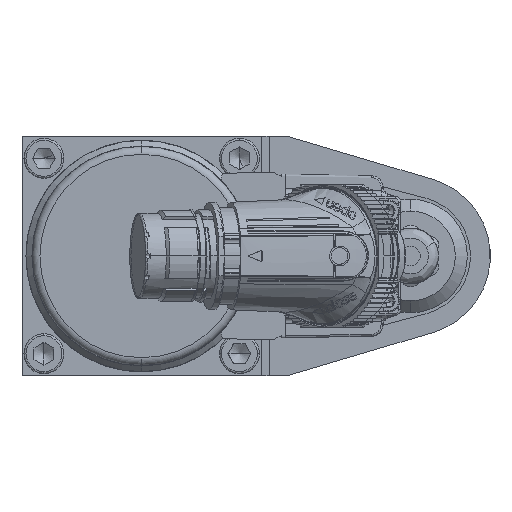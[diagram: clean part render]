
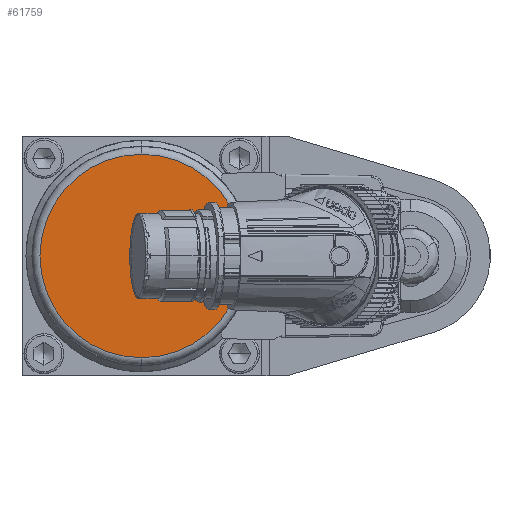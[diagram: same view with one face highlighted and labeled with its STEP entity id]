
A CAD part, left-side view. The second image highlights one B-rep face of the part: STEP entity #61759.
In plain terms, the highlighted planar face has unit normal (-1, 0, 0).
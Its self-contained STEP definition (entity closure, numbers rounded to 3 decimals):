
#1273 = FACE_OUTER_BOUND ( 'NONE', #20915, .T. ) ;
#4824 = EDGE_CURVE ( 'NONE', #55603, #28384, #36737, .T. ) ;
#8284 = CARTESIAN_POINT ( 'NONE',  ( -348.4, 0., 25.5 ) ) ;
#8621 = DIRECTION ( 'NONE',  ( -1., 0., 0. ) ) ;
#17584 = ORIENTED_EDGE ( 'NONE', *, *, #4824, .T. ) ;
#18930 = ORIENTED_EDGE ( 'NONE', *, *, #46751, .T. ) ;
#19496 = DIRECTION ( 'NONE',  ( -1., 0., 0. ) ) ;
#20915 = EDGE_LOOP ( 'NONE', ( #18930, #17584 ) ) ;
#21367 = DIRECTION ( 'NONE',  ( -1., 0., 0. ) ) ;
#28384 = VERTEX_POINT ( 'NONE', #8284 ) ;
#34796 = CARTESIAN_POINT ( 'NONE',  ( -348.4, 0., 0. ) ) ;
#36737 = CIRCLE ( 'NONE', #95067, 25.5 ) ;
#46751 = EDGE_CURVE ( 'NONE', #28384, #55603, #72638, .T. ) ;
#55603 = VERTEX_POINT ( 'NONE', #56326 ) ;
#56326 = CARTESIAN_POINT ( 'NONE',  ( -348.4, 0., -25.5 ) ) ;
#61343 = PLANE ( 'NONE',  #98735 ) ;
#61759 = ADVANCED_FACE ( 'NONE', ( #1273 ), #61343, .T. ) ;
#70191 = DIRECTION ( 'NONE',  ( 0., 0., 1. ) ) ;
#72173 = CARTESIAN_POINT ( 'NONE',  ( -348.4, 0., 0. ) ) ;
#72638 = CIRCLE ( 'NONE', #88935, 25.5 ) ;
#74053 = CARTESIAN_POINT ( 'NONE',  ( -348.4, 0., 0. ) ) ;
#80969 = DIRECTION ( 'NONE',  ( 0., 0., 1. ) ) ;
#82869 = DIRECTION ( 'NONE',  ( 0., 0., 1. ) ) ;
#88935 = AXIS2_PLACEMENT_3D ( 'NONE', #72173, #19496, #80969 ) ;
#95067 = AXIS2_PLACEMENT_3D ( 'NONE', #74053, #21367, #82869 ) ;
#98735 = AXIS2_PLACEMENT_3D ( 'NONE', #34796, #8621, #70191 ) ;
